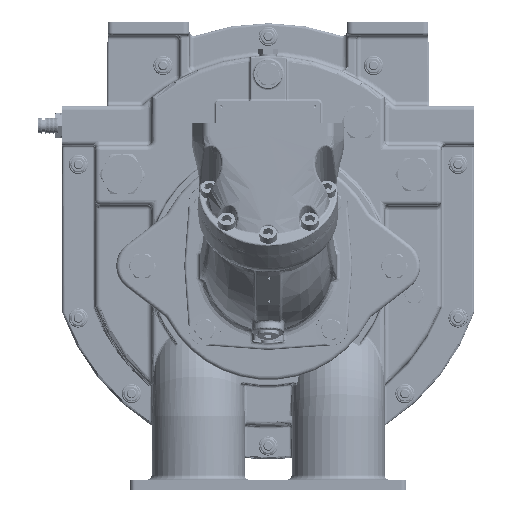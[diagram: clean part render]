
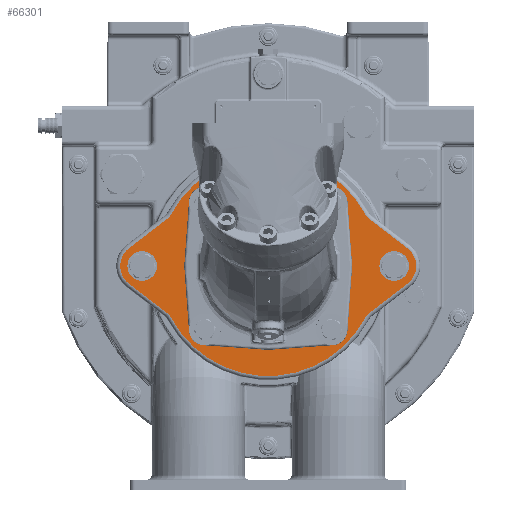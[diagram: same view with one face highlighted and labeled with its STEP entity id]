
A CAD part, left-side view. The second image highlights one B-rep face of the part: STEP entity #66301.
In plain terms, the highlighted planar face has unit normal (-1, 0, 0) as drawn and (0, 1, 0) by its records, which use the part's own axes.
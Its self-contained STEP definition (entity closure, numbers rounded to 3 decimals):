
#4537=FACE_BOUND('',#16483,.T.);
#4538=FACE_BOUND('',#16484,.T.);
#4539=FACE_BOUND('',#16485,.T.);
#4540=FACE_BOUND('',#16486,.T.);
#4541=FACE_BOUND('',#16487,.T.);
#4542=FACE_BOUND('',#16488,.T.);
#4543=FACE_BOUND('',#16489,.T.);
#9412=PLANE('',#72271);
#12256=FACE_OUTER_BOUND('',#16482,.T.);
#16482=EDGE_LOOP('',(#55034,#55035,#55036,#55037,#55038,#55039,#55040,#55041,
#55042,#55043,#55044,#55045));
#16483=EDGE_LOOP('',(#55046));
#16484=EDGE_LOOP('',(#55047));
#16485=EDGE_LOOP('',(#55048));
#16486=EDGE_LOOP('',(#55049));
#16487=EDGE_LOOP('',(#55050));
#16488=EDGE_LOOP('',(#55051));
#16489=EDGE_LOOP('',(#55052));
#20358=LINE('',#114091,#24071);
#20359=LINE('',#114095,#24072);
#20360=LINE('',#114103,#24073);
#20361=LINE('',#114107,#24074);
#24071=VECTOR('',#85027,10.);
#24072=VECTOR('',#85030,10.);
#24073=VECTOR('',#85037,10.);
#24074=VECTOR('',#85040,10.);
#27618=CIRCLE('',#72246,6.92);
#27620=CIRCLE('',#72249,6.92);
#27623=CIRCLE('',#72253,6.92);
#27625=CIRCLE('',#72256,6.92);
#27633=CIRCLE('',#72270,91.5);
#27634=CIRCLE('',#72272,137.5);
#27635=CIRCLE('',#72273,20.);
#27636=CIRCLE('',#72274,28.);
#27637=CIRCLE('',#72275,20.);
#27638=CIRCLE('',#72276,137.5);
#27639=CIRCLE('',#72277,20.);
#27640=CIRCLE('',#72278,28.);
#27641=CIRCLE('',#72279,20.);
#27642=CIRCLE('',#72280,18.5);
#27643=CIRCLE('',#72281,18.5);
#32119=VERTEX_POINT('',#114035);
#32120=VERTEX_POINT('',#114040);
#32122=VERTEX_POINT('',#114047);
#32123=VERTEX_POINT('',#114052);
#32131=VERTEX_POINT('',#114081);
#32132=VERTEX_POINT('',#114085);
#32133=VERTEX_POINT('',#114086);
#32134=VERTEX_POINT('',#114088);
#32135=VERTEX_POINT('',#114090);
#32136=VERTEX_POINT('',#114092);
#32137=VERTEX_POINT('',#114094);
#32138=VERTEX_POINT('',#114096);
#32139=VERTEX_POINT('',#114098);
#32140=VERTEX_POINT('',#114100);
#32141=VERTEX_POINT('',#114102);
#32142=VERTEX_POINT('',#114104);
#32143=VERTEX_POINT('',#114106);
#32144=VERTEX_POINT('',#114109);
#32145=VERTEX_POINT('',#114111);
#40113=EDGE_CURVE('',#32119,#32119,#27618,.T.);
#40116=EDGE_CURVE('',#32120,#32120,#27620,.T.);
#40120=EDGE_CURVE('',#32122,#32122,#27623,.T.);
#40123=EDGE_CURVE('',#32123,#32123,#27625,.T.);
#40138=EDGE_CURVE('',#32131,#32131,#27633,.T.);
#40140=EDGE_CURVE('',#32132,#32133,#27634,.T.);
#40141=EDGE_CURVE('',#32134,#32132,#27635,.T.);
#40142=EDGE_CURVE('',#32135,#32134,#20358,.T.);
#40143=EDGE_CURVE('',#32136,#32135,#27636,.T.);
#40144=EDGE_CURVE('',#32137,#32136,#20359,.T.);
#40145=EDGE_CURVE('',#32138,#32137,#27637,.T.);
#40146=EDGE_CURVE('',#32139,#32138,#27638,.T.);
#40147=EDGE_CURVE('',#32140,#32139,#27639,.T.);
#40148=EDGE_CURVE('',#32141,#32140,#20360,.T.);
#40149=EDGE_CURVE('',#32142,#32141,#27640,.T.);
#40150=EDGE_CURVE('',#32143,#32142,#20361,.T.);
#40151=EDGE_CURVE('',#32133,#32143,#27641,.T.);
#40152=EDGE_CURVE('',#32144,#32144,#27642,.T.);
#40153=EDGE_CURVE('',#32145,#32145,#27643,.T.);
#55034=ORIENTED_EDGE('',*,*,#40140,.F.);
#55035=ORIENTED_EDGE('',*,*,#40141,.F.);
#55036=ORIENTED_EDGE('',*,*,#40142,.F.);
#55037=ORIENTED_EDGE('',*,*,#40143,.F.);
#55038=ORIENTED_EDGE('',*,*,#40144,.F.);
#55039=ORIENTED_EDGE('',*,*,#40145,.F.);
#55040=ORIENTED_EDGE('',*,*,#40146,.F.);
#55041=ORIENTED_EDGE('',*,*,#40147,.F.);
#55042=ORIENTED_EDGE('',*,*,#40148,.F.);
#55043=ORIENTED_EDGE('',*,*,#40149,.F.);
#55044=ORIENTED_EDGE('',*,*,#40150,.F.);
#55045=ORIENTED_EDGE('',*,*,#40151,.F.);
#55046=ORIENTED_EDGE('',*,*,#40152,.T.);
#55047=ORIENTED_EDGE('',*,*,#40153,.T.);
#55048=ORIENTED_EDGE('',*,*,#40138,.F.);
#55049=ORIENTED_EDGE('',*,*,#40123,.T.);
#55050=ORIENTED_EDGE('',*,*,#40120,.T.);
#55051=ORIENTED_EDGE('',*,*,#40116,.T.);
#55052=ORIENTED_EDGE('',*,*,#40113,.T.);
#66301=ADVANCED_FACE('',(#12256,#4537,#4538,#4539,#4540,#4541,#4542,#4543),
#9412,.T.);
#72246=AXIS2_PLACEMENT_3D('',#114036,#84960,#84961);
#72249=AXIS2_PLACEMENT_3D('',#114041,#84967,#84968);
#72253=AXIS2_PLACEMENT_3D('',#114048,#84976,#84977);
#72256=AXIS2_PLACEMENT_3D('',#114053,#84983,#84984);
#72270=AXIS2_PLACEMENT_3D('',#114082,#85018,#85019);
#72271=AXIS2_PLACEMENT_3D('',#114084,#85021,#85022);
#72272=AXIS2_PLACEMENT_3D('',#114087,#85023,#85024);
#72273=AXIS2_PLACEMENT_3D('',#114089,#85025,#85026);
#72274=AXIS2_PLACEMENT_3D('',#114093,#85028,#85029);
#72275=AXIS2_PLACEMENT_3D('',#114097,#85031,#85032);
#72276=AXIS2_PLACEMENT_3D('',#114099,#85033,#85034);
#72277=AXIS2_PLACEMENT_3D('',#114101,#85035,#85036);
#72278=AXIS2_PLACEMENT_3D('',#114105,#85038,#85039);
#72279=AXIS2_PLACEMENT_3D('',#114108,#85041,#85042);
#72280=AXIS2_PLACEMENT_3D('',#114110,#85043,#85044);
#72281=AXIS2_PLACEMENT_3D('',#114112,#85045,#85046);
#84960=DIRECTION('center_axis',(0.,-1.,0.));
#84961=DIRECTION('ref_axis',(-1.,0.,0.));
#84967=DIRECTION('center_axis',(0.,-1.,0.));
#84968=DIRECTION('ref_axis',(-1.,0.,0.));
#84976=DIRECTION('center_axis',(0.,-1.,0.));
#84977=DIRECTION('ref_axis',(-1.,0.,0.));
#84983=DIRECTION('center_axis',(0.,-1.,0.));
#84984=DIRECTION('ref_axis',(-1.,0.,0.));
#85018=DIRECTION('center_axis',(0.,1.,0.));
#85019=DIRECTION('ref_axis',(1.,0.,0.));
#85021=DIRECTION('center_axis',(0.,1.,0.));
#85022=DIRECTION('ref_axis',(-1.,0.,0.));
#85023=DIRECTION('center_axis',(0.,-1.,0.));
#85024=DIRECTION('ref_axis',(0.,0.,1.));
#85025=DIRECTION('center_axis',(0.,1.,0.));
#85026=DIRECTION('ref_axis',(-0.762,0.,-0.648));
#85027=DIRECTION('',(-0.793,0.,0.609));
#85028=DIRECTION('center_axis',(0.,-1.,0.));
#85029=DIRECTION('ref_axis',(1.,0.,0.));
#85030=DIRECTION('',(0.793,0.,0.609));
#85031=DIRECTION('center_axis',(0.,1.,0.));
#85032=DIRECTION('ref_axis',(-0.762,0.,0.648));
#85033=DIRECTION('center_axis',(0.,-1.,0.));
#85034=DIRECTION('ref_axis',(0.,0.,-1.));
#85035=DIRECTION('center_axis',(0.,1.,0.));
#85036=DIRECTION('ref_axis',(0.762,0.,0.648));
#85037=DIRECTION('',(0.793,0.,-0.609));
#85038=DIRECTION('center_axis',(0.,-1.,0.));
#85039=DIRECTION('ref_axis',(-1.,0.,0.));
#85040=DIRECTION('',(-0.793,0.,-0.609));
#85041=DIRECTION('center_axis',(0.,1.,0.));
#85042=DIRECTION('ref_axis',(0.762,0.,-0.648));
#85043=DIRECTION('center_axis',(0.,-1.,0.));
#85044=DIRECTION('ref_axis',(-1.,0.,0.));
#85045=DIRECTION('center_axis',(0.,-1.,0.));
#85046=DIRECTION('ref_axis',(-1.,0.,0.));
#114035=CARTESIAN_POINT('',(86.12,294.,79.2));
#114036=CARTESIAN_POINT('Origin',(79.2,294.,79.2));
#114040=CARTESIAN_POINT('',(-72.28,294.,79.2));
#114041=CARTESIAN_POINT('Origin',(-79.2,294.,79.2));
#114047=CARTESIAN_POINT('',(86.12,294.,-79.2));
#114048=CARTESIAN_POINT('Origin',(79.2,294.,-79.2));
#114052=CARTESIAN_POINT('',(-72.28,294.,-79.2));
#114053=CARTESIAN_POINT('Origin',(-79.2,294.,-79.2));
#114081=CARTESIAN_POINT('',(-91.5,294.,0.));
#114082=CARTESIAN_POINT('Origin',(0.,294.,0.));
#114084=CARTESIAN_POINT('Origin',(0.,294.,0.));
#114085=CARTESIAN_POINT('',(121.15,294.,65.031));
#114086=CARTESIAN_POINT('',(-121.15,294.,65.031));
#114087=CARTESIAN_POINT('Origin',(0.,294.,0.));
#114088=CARTESIAN_POINT('',(126.596,294.,58.623));
#114089=CARTESIAN_POINT('Origin',(138.771,294.,74.49));
#114090=CARTESIAN_POINT('',(174.045,294.,22.214));
#114091=CARTESIAN_POINT('',(124.637,294.,60.126));
#114092=CARTESIAN_POINT('',(174.045,294.,-22.214));
#114093=CARTESIAN_POINT('Origin',(157.,294.,0.));
#114094=CARTESIAN_POINT('',(126.596,294.,-58.623));
#114095=CARTESIAN_POINT('',(99.599,294.,-79.339));
#114096=CARTESIAN_POINT('',(121.15,294.,-65.031));
#114097=CARTESIAN_POINT('Origin',(138.771,294.,-74.49));
#114098=CARTESIAN_POINT('',(-121.15,294.,-65.031));
#114099=CARTESIAN_POINT('Origin',(0.,294.,0.));
#114100=CARTESIAN_POINT('',(-126.596,294.,-58.623));
#114101=CARTESIAN_POINT('Origin',(-138.771,294.,-74.49));
#114102=CARTESIAN_POINT('',(-174.045,294.,-22.214));
#114103=CARTESIAN_POINT('',(-124.637,294.,-60.126));
#114104=CARTESIAN_POINT('',(-174.045,294.,22.214));
#114105=CARTESIAN_POINT('Origin',(-157.,294.,0.));
#114106=CARTESIAN_POINT('',(-126.596,294.,58.623));
#114107=CARTESIAN_POINT('',(-99.599,294.,79.339));
#114108=CARTESIAN_POINT('Origin',(-138.771,294.,74.49));
#114109=CARTESIAN_POINT('',(-139.,294.,0.));
#114110=CARTESIAN_POINT('Origin',(-157.5,294.,0.));
#114111=CARTESIAN_POINT('',(176.,294.,0.));
#114112=CARTESIAN_POINT('Origin',(157.5,294.,0.));
